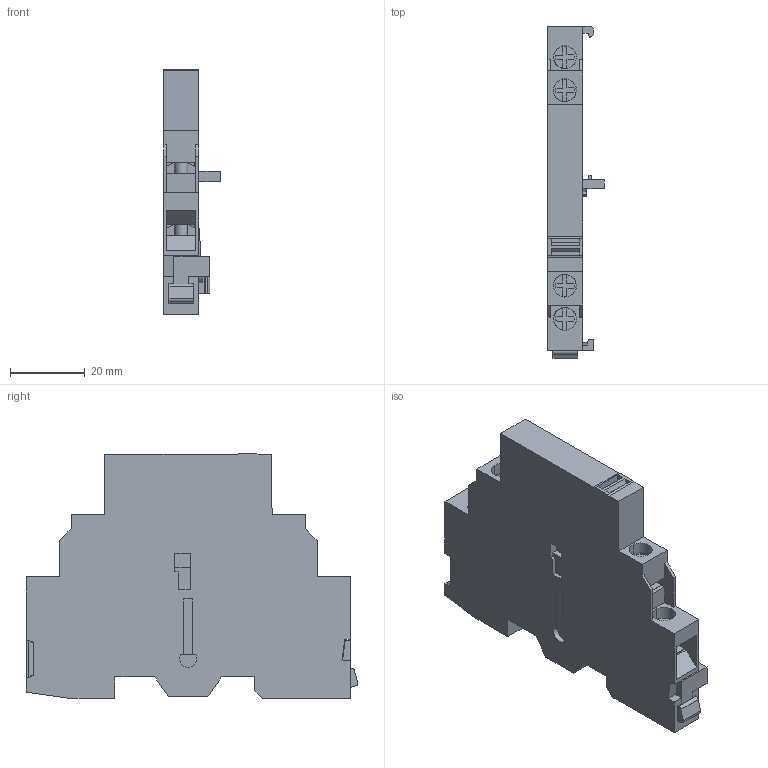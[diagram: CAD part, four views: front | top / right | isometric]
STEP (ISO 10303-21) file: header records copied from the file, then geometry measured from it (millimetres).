
FILE_DESCRIPTION(('Open CASCADE Model'),'2;1');
FILE_NAME('Open CASCADE Shape Model','2023-03-29T06:41:14',('Author'),( 'Open CASCADE'),'Open CASCADE STEP processor 7.4','Open CASCADE 7.4' ,'Unknown');
FILE_SCHEMA(('AUTOMOTIVE_DESIGN { 1 0 10303 214 1 1 1 1 }'));
Products named in the file (1): gvanxx-3d
Bounding box: 15.15 x 89.04 x 65.64 mm (x, y, z)
Volume: 79534.7 mm3; surface area: 32653.3 mm2
Topology: 4 solids, 153 shells, 855 faces, 2933 edges, 2227 vertices
Faces by surface type: plane 693, cylinder 98, extrusion 64
Entity records: 71751 total; most frequent: CARTESIAN_POINT 20519, DIRECTION 8684, VECTOR 6566, LINE 6502, ORIENTED_EDGE 4999, PCURVE 4999, DEFINITIONAL_REPRESENTATION 4999, EDGE_CURVE 2933
